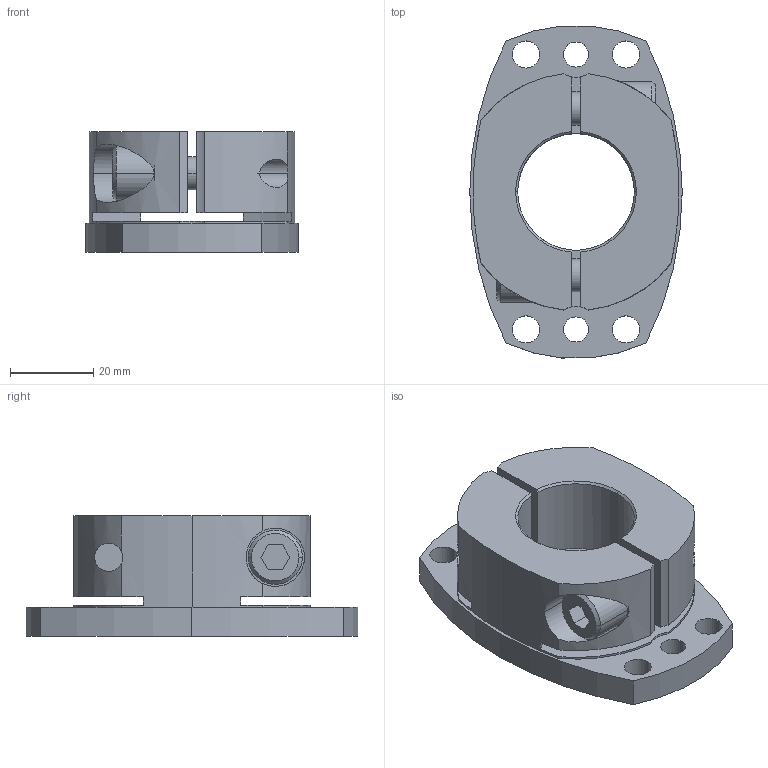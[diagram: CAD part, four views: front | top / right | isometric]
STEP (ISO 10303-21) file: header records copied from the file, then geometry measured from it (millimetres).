
FILE_DESCRIPTION((''),'2;1');
FILE_NAME('SHDB-80B-28.stp','2026-01-28T08:30:18',(''),(''),'AutoCAD STEP 2000i','AutoCAD 2000i',', , ');
FILE_SCHEMA(('CONFIG_CONTROL_DESIGN'));
Length unit declared in the file: millimetre
Products named in the file (2): SHDB-80B-28; 忣兜1
Assembly tree (1 placements, depth 2):
  SHDB-80B-28
    忣兜1
Bounding box: 51 x 79.7 x 29 mm (x, y, z)
Volume: 52218.2 mm3; surface area: 19005.4 mm2
Topology: 1 solids, 1 shells, 102 faces, 280 edges, 184 vertices
Faces by surface type: cylinder 58, plane 34, cone 10
Entity records: 3695 total; most frequent: CARTESIAN_POINT 868, DIRECTION 602, ORIENTED_EDGE 560, EDGE_CURVE 280, AXIS2_PLACEMENT_3D 238, VERTEX_POINT 184, CIRCLE 134, VECTOR 126
